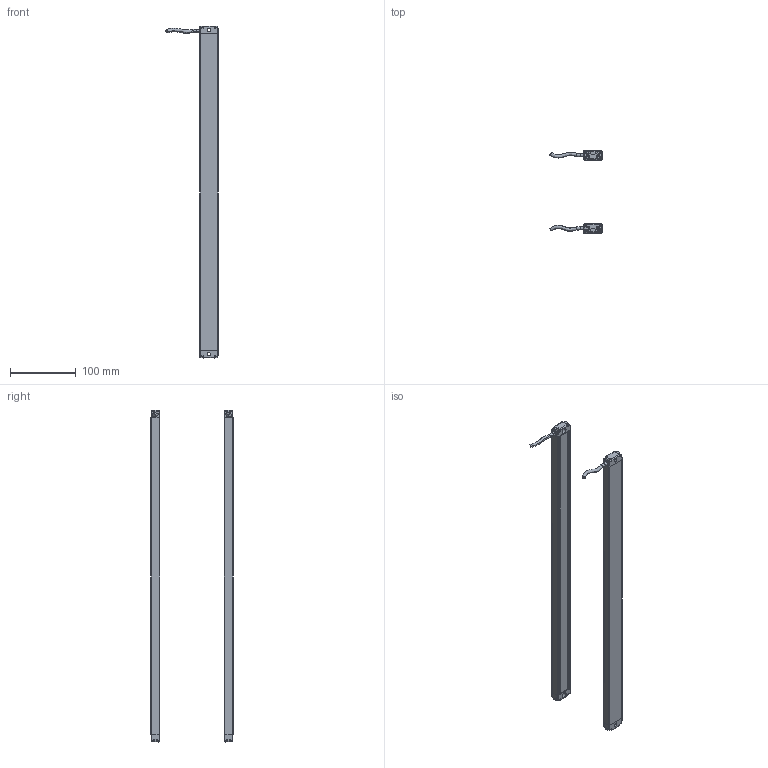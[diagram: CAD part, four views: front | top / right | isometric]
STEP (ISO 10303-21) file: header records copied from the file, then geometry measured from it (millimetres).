
FILE_DESCRIPTION(/* description */ (''),/* implementation_level */ '2;1');
FILE_NAME(/* name */ '4810(13X28W).stp',/* time_stamp */ '2020-06-19T11:35:36+08:00',/* author */ (''),/* organization */ (''),/* preprocessor_version */ 'ST-DEVELOPER v16',/* originating_system */ 'SIEMENS PLM Software NX 10.0',/* authorisation */ '');
FILE_SCHEMA (('AP203_CONFIGURATION_CONTROLLED_3D_DESIGN_OF_MECHANICAL_PARTS_AND_ASSEMBLIES_MIM_LF { 1 0 10303 403 2 1 2}'));
Length unit declared in the file: millimetre
Products named in the file (1): Admi184CCD9Epmrw
Bounding box: 79.6 x 125.02 x 506 mm (x, y, z)
Volume: 148992.8 mm3; surface area: 197536.1 mm2
Topology: 10 solids, 10 shells, 760 faces, 2148 edges, 1417 vertices
Faces by surface type: plane 356, cylinder 312, torus 52, bspline 40
Entity records: 28227 total; most frequent: CARTESIAN_POINT 8707, ORIENTED_EDGE 4296, DIRECTION 3781, EDGE_CURVE 2148, VERTEX_POINT 1417, AXIS2_PLACEMENT_3D 1283, LINE 1215, VECTOR 1215
